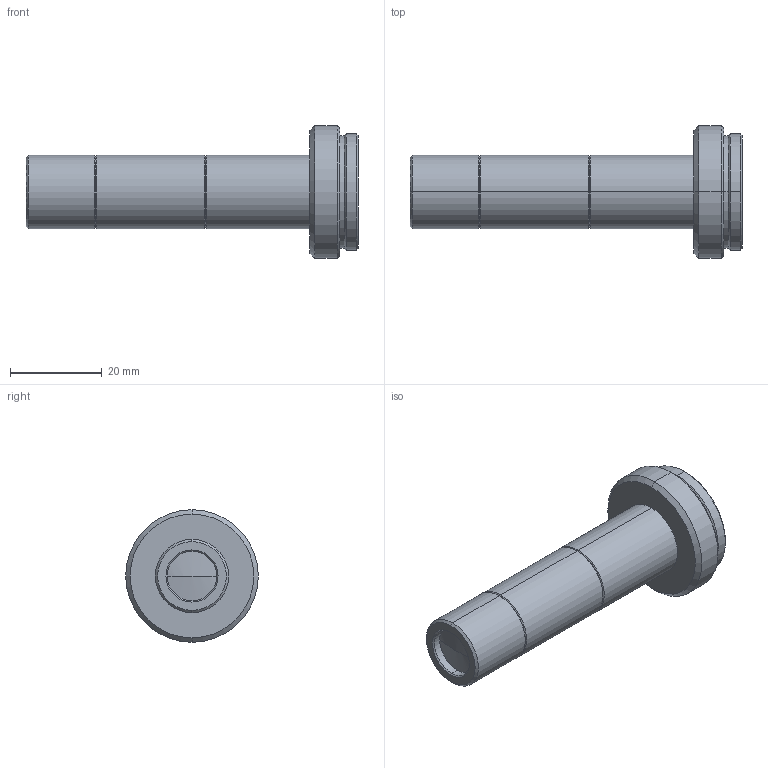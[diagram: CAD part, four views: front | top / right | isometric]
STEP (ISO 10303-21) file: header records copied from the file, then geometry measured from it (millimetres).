
FILE_DESCRIPTION (( 'STEP AP203' ), '1' );
FILE_NAME ('APT2-65.STEP', '2020-08-21T07:24:10', ( '' ), ( '' ), 'SwSTEP 2.0', 'SolidWorks 2020', '' );
FILE_SCHEMA (( 'CONFIG_CONTROL_DESIGN' ));
Length unit declared in the file: millimetre
Products named in the file (1): APT2-65
Bounding box: 72.54 x 29 x 29 mm (x, y, z)
Volume: 14967.8 mm3; surface area: 6346.9 mm2
Topology: 1 solids, 1 shells, 72 faces, 146 edges, 84 vertices
Faces by surface type: cone 36, cylinder 24, plane 8, sphere 4
Entity records: 1953 total; most frequent: DIRECTION 378, CARTESIAN_POINT 303, ORIENTED_EDGE 292, AXIS2_PLACEMENT_3D 159, EDGE_CURVE 146, CIRCLE 86, VERTEX_POINT 84, EDGE_LOOP 80
